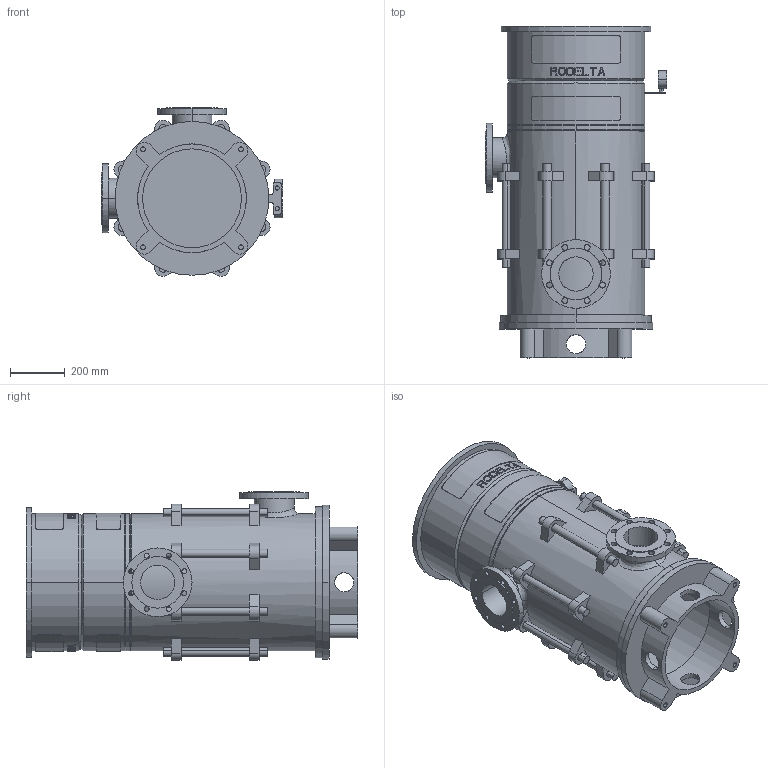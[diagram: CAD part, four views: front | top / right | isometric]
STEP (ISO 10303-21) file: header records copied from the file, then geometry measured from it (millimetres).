
FILE_DESCRIPTION((''),'2;1');
FILE_NAME('LS5_3TR_0GR_ABOVE_30KW','2023-08-08T',('Lyritlocal'),(''),'PRO/ENGINEER BY PARAMETRIC TECHNOLOGY CORPORATION, 2016360','PRO/ENGINEER BY PARAMETRIC TECHNOLOGY CORPORATION, 2016360','');
FILE_SCHEMA(('CONFIG_CONTROL_DESIGN'));
Length unit declared in the file: millimetre
Products named in the file (1): LS5_3TR_0GR_ABOVE_30KW
Bounding box: 660 x 1208 x 614.04 mm (x, y, z)
Volume: 38937234.2 mm3; surface area: 5500545.5 mm2
Topology: 3 solids, 7 shells, 672 faces, 1749 edges, 1158 vertices
Faces by surface type: plane 414, cylinder 242, cone 12, bspline 4
Entity records: 21969 total; most frequent: CARTESIAN_POINT 5517, ORIENTED_EDGE 3482, DIRECTION 3271, EDGE_CURVE 1749, AXIS2_PLACEMENT_3D 1241, VERTEX_POINT 1158, EDGE_LOOP 807, VECTOR 789
